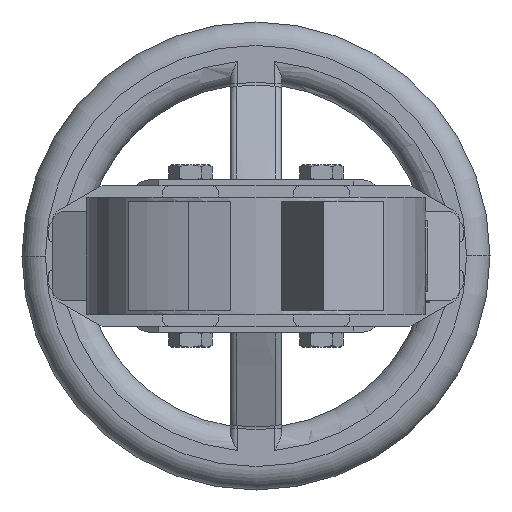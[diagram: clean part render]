
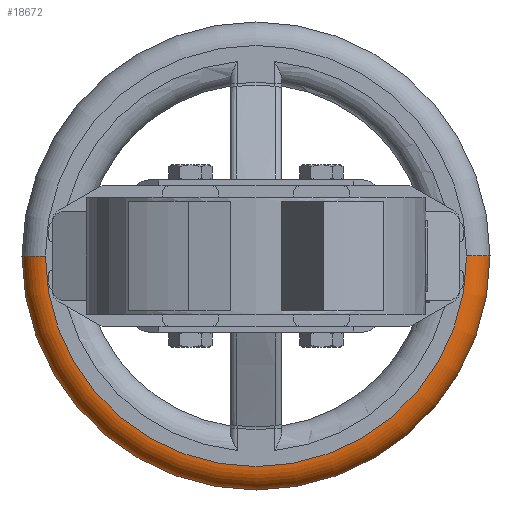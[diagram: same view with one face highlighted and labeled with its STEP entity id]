
A CAD part, front view. The second image highlights one B-rep face of the part: STEP entity #18672.
In plain terms, the highlighted toroidal (fillet/blend) face has major radius 90 mm and minor radius 10 mm.
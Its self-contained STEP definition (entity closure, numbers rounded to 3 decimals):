
#2708 = TOROIDAL_SURFACE ( 'NONE', #2710, 90., 10. ) ;
#2709 = CARTESIAN_POINT ( 'NONE',  ( 0., 371., 0. ) ) ;
#2710 = AXIS2_PLACEMENT_3D ( 'NONE', #2709, #2773, #2772 ) ;
#2711 = FACE_OUTER_BOUND ( 'NONE', #15245, .T. ) ;
#2746 = CIRCLE ( 'NONE', #2803, 90. ) ;
#2768 = DIRECTION ( 'NONE',  ( -1., 0., 0. ) ) ;
#2769 = DIRECTION ( 'NONE',  ( 0., 1., 0. ) ) ;
#2770 = CARTESIAN_POINT ( 'NONE',  ( 0., 371., 0. ) ) ;
#2771 = AXIS2_PLACEMENT_3D ( 'NONE', #2770, #2769, #2768 ) ;
#2772 = DIRECTION ( 'NONE',  ( -1., 0., 0. ) ) ;
#2773 = DIRECTION ( 'NONE',  ( 0., 1., 0. ) ) ;
#2774 = CIRCLE ( 'NONE', #2771, 100. ) ;
#2800 = DIRECTION ( 'NONE',  ( -1., 0., 0. ) ) ;
#2801 = DIRECTION ( 'NONE',  ( 0., 1., 0. ) ) ;
#2802 = CARTESIAN_POINT ( 'NONE',  ( 0., 361., 0. ) ) ;
#2803 = AXIS2_PLACEMENT_3D ( 'NONE', #2802, #2801, #2800 ) ;
#15245 = EDGE_LOOP ( 'NONE', ( #18673, #18674, #18675, #18676 ) ) ;
#15395 = VERTEX_POINT ( 'NONE', #26185 ) ;
#15408 = VERTEX_POINT ( 'NONE', #26240 ) ;
#15446 = VERTEX_POINT ( 'NONE', #26297 ) ;
#15802 = DIRECTION ( 'NONE',  ( 1., 0., 0. ) ) ;
#15803 = DIRECTION ( 'NONE',  ( 0., 0., 1. ) ) ;
#15804 = CARTESIAN_POINT ( 'NONE',  ( 90., 371., 0. ) ) ;
#15805 = AXIS2_PLACEMENT_3D ( 'NONE', #15804, #15803, #15802 ) ;
#15806 = CIRCLE ( 'NONE', #15805, 10. ) ;
#15807 = CARTESIAN_POINT ( 'NONE',  ( -90., 371., 0. ) ) ;
#15814 = CARTESIAN_POINT ( 'NONE',  ( -90., 361., 0. ) ) ;
#15862 = DIRECTION ( 'NONE',  ( -1., 0., 0. ) ) ;
#15863 = DIRECTION ( 'NONE',  ( 0., 0., -1. ) ) ;
#15864 = AXIS2_PLACEMENT_3D ( 'NONE', #15807, #15863, #15862 ) ;
#15865 = CIRCLE ( 'NONE', #15864, 10. ) ;
#18672 = ADVANCED_FACE ( 'NONE', ( #2711 ), #2708, .T. ) ;
#18673 = ORIENTED_EDGE ( 'NONE', *, *, #28556, .F. ) ;
#18674 = ORIENTED_EDGE ( 'NONE', *, *, #18694, .T. ) ;
#18675 = ORIENTED_EDGE ( 'NONE', *, *, #28557, .T. ) ;
#18676 = ORIENTED_EDGE ( 'NONE', *, *, #18677, .F. ) ;
#18677 = EDGE_CURVE ( 'NONE', #15408, #15395, #2774, .T. ) ;
#18694 = EDGE_CURVE ( 'NONE', #15446, #28548, #2746, .T. ) ;
#26185 = CARTESIAN_POINT ( 'NONE',  ( -100., 371., 0. ) ) ;
#26240 = CARTESIAN_POINT ( 'NONE',  ( 100., 371., 0. ) ) ;
#26297 = CARTESIAN_POINT ( 'NONE',  ( 90., 361., 0. ) ) ;
#28548 = VERTEX_POINT ( 'NONE', #15814 ) ;
#28556 = EDGE_CURVE ( 'NONE', #15446, #15408, #15806, .T. ) ;
#28557 = EDGE_CURVE ( 'NONE', #28548, #15395, #15865, .T. ) ;
